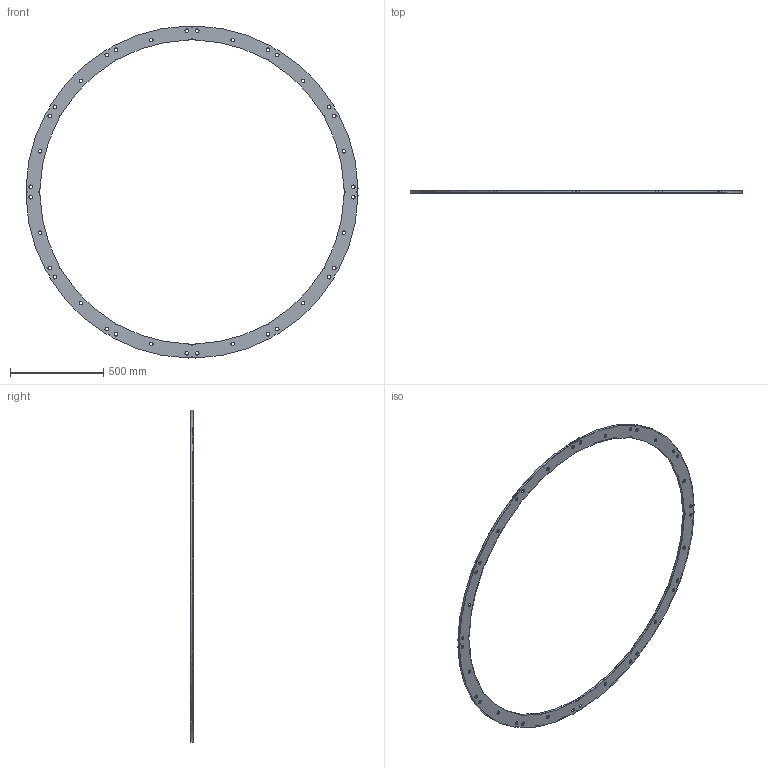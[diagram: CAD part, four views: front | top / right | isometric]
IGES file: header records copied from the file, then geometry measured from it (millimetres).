
Start section:  PTC IGES file: cst_end_flange.igs
Global section: file name: cst_end_flange.igs; native system: Pro/ENGINEER by Parametric Technology Corporation; preprocessor: 1999260; author: oshatz; organization: Unknown; date: 000922.101703; units: inch
Bounding box: 1784.74 x 12.01 x 1784.74 mm (x, y, z)
Surface area: 1011101.3 mm2 (no closed solid volume)
Topology: 0 solids, 0 shells, 386 faces, 2304 edges, 2304 vertices
Faces by surface type: bspline 218, revolution 168
